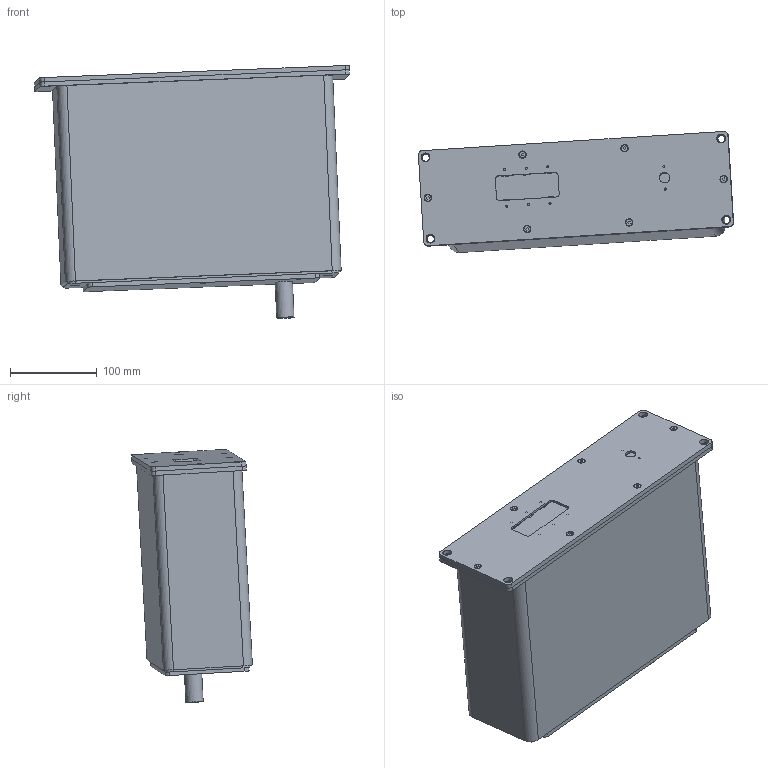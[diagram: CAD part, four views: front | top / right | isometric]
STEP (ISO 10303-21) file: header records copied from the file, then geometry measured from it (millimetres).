
FILE_DESCRIPTION((''),'2;1');
FILE_NAME('Z:\udvikling\Inventor Tegninger\Produktions Tegninger\9100 Kølekasse til RedLine\Step File til hjemmeside\Protection House Red_Line Step File 3D\Protection House Red_Line Step File 3D.stp','2017-03-24T02:00:53',('Peter'),(''),'Autodesk Inventor 2008','Autodesk Inventor 2008','');
FILE_SCHEMA(('AUTOMOTIVE_DESIGN { 1 0 10303 214 1 1 1 1 }'));
Length unit declared in the file: millimetre
Products named in the file (22): Assembly Water Cooled Protection House Red-Line  (LevelofDetail1); 3005-18_House; 3015-02_RedlineFod; 9101-01_Bottom_Pipe_10mm; 9102-01_Bottom_Window_Frame; 9103-02_Bottom_Plate; 9105-01_Inside_Bracket; M4 HEX skrue; M12 12pol Connector; 9106-01_Outside_Closure; 9107-02_Window_Frame_Plate; Protection glass 29_8X73_8; Window_Clips; Protection glass 13_8mm; 9108-01_Internal_Top_Plate; 9110-01_Top_Lid; Insulation_RedLine; 9109-01_Cable_Pipe; 3006-10_Låg; M4skrue; 3020-01_RødtFrontGlas_74x30_RG630_HB630; 3021-01_RødtLaserGlas_Ø11
Assembly tree (50 placements, depth 2):
  Assembly Water Cooled Protection House Red-Line  (LevelofDetail1)
    3005-18_House
    3015-02_RedlineFod  x3
    9101-01_Bottom_Pipe_10mm
    9102-01_Bottom_Window_Frame
    9103-02_Bottom_Plate
    9105-01_Inside_Bracket
    M4 HEX skrue  x14
    M12 12pol Connector
    9106-01_Outside_Closure
    9107-02_Window_Frame_Plate
    Protection glass 29_8X73_8
    Window_Clips  x8
    Protection glass 13_8mm
    9108-01_Internal_Top_Plate
    9110-01_Top_Lid
    Insulation_RedLine
    9109-01_Cable_Pipe
    3006-10_Låg
    M4skrue  x8
    3020-01_RødtFrontGlas_74x30_RG630_HB630
    3021-01_RødtLaserGlas_Ø11
Bounding box: 363.55 x 139.23 x 291.87 mm (x, y, z)
Volume: 1961907.6 mm3; surface area: 1032119.6 mm2
Topology: 50 solids, 50 shells, 1133 faces, 2739 edges, 1809 vertices
Faces by surface type: plane 651, cylinder 319, bspline 94, cone 45, torus 24
Full cylindrical faces by diameter (mm): 0.5 x12, 3.242 x8, 3.3 x6, 3.6 x14, 4 x8, 4.4 x8, 5.3 x2, 6.9 x8, 8 x9, 10 x6, 10.106 x3, 11.8 x1, 12 x7, 12.3 x1, 13.778 x1, 13.8 x1, 14 x1, 14.376 x1, 15.3 x3, 16 x2, 20 x1, 25 x3
Entity records: 25090 total; most frequent: CARTESIAN_POINT 5254, DIRECTION 4108, ORIENTED_EDGE 3644, EDGE_CURVE 1822, AXIS2_PLACEMENT_3D 1501, VERTEX_POINT 1283, EDGE_LOOP 1125, VECTOR 1106
